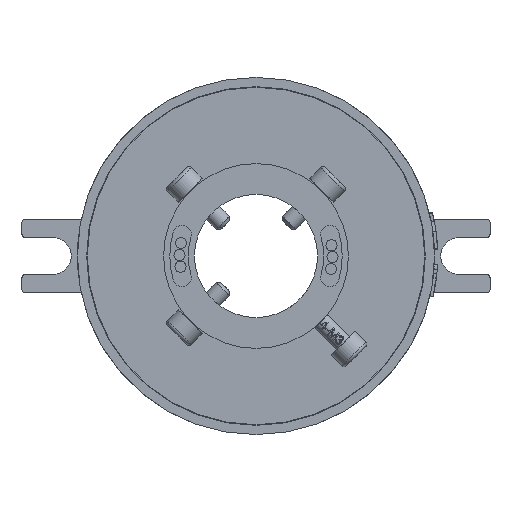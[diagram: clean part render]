
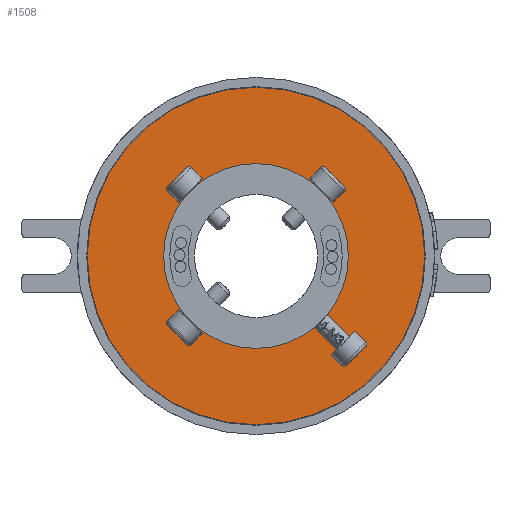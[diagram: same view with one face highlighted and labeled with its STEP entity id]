
A CAD part, left-side view. The second image highlights one B-rep face of the part: STEP entity #1508.
In plain terms, the highlighted planar face has unit normal (-1, 0, 0).
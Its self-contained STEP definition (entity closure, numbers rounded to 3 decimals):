
#190=FACE_BOUND('',#2696,.T.);
#191=FACE_BOUND('',#2697,.T.);
#1508=ADVANCED_FACE('',(#190,#191),#1921,.T.);
#1921=PLANE('',#8476);
#2696=EDGE_LOOP('',(#4357));
#2697=EDGE_LOOP('',(#4358));
#3169=CIRCLE('',#8474,15.);
#3170=CIRCLE('',#8475,27.4);
#4357=ORIENTED_EDGE('',*,*,#7171,.T.);
#4358=ORIENTED_EDGE('',*,*,#7172,.F.);
#6121=VERTEX_POINT('',#28420);
#6122=VERTEX_POINT('',#28422);
#7171=EDGE_CURVE('',#6121,#6121,#3169,.T.);
#7172=EDGE_CURVE('',#6122,#6122,#3170,.T.);
#8474=AXIS2_PLACEMENT_3D('',#28419,#9656,#9657);
#8475=AXIS2_PLACEMENT_3D('',#28421,#9658,#9659);
#8476=AXIS2_PLACEMENT_3D('',#28423,#9660,#9661);
#9656=DIRECTION('',(1.,0.,0.));
#9657=DIRECTION('',(0.,0.,1.));
#9658=DIRECTION('',(1.,0.,0.));
#9659=DIRECTION('',(0.,0.,-1.));
#9660=DIRECTION('',(-1.,0.,0.));
#9661=DIRECTION('',(0.,0.,1.));
#28419=CARTESIAN_POINT('',(7.,0.,0.));
#28420=CARTESIAN_POINT('',(7.,0.,15.));
#28421=CARTESIAN_POINT('',(7.,0.,0.));
#28422=CARTESIAN_POINT('',(7.,0.,-27.4));
#28423=CARTESIAN_POINT('',(7.,0.,0.));
